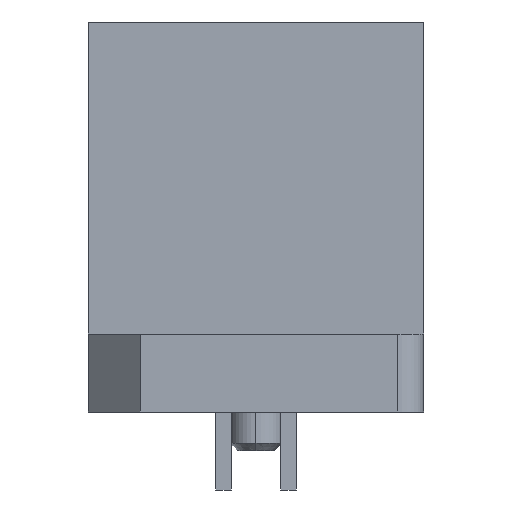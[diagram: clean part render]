
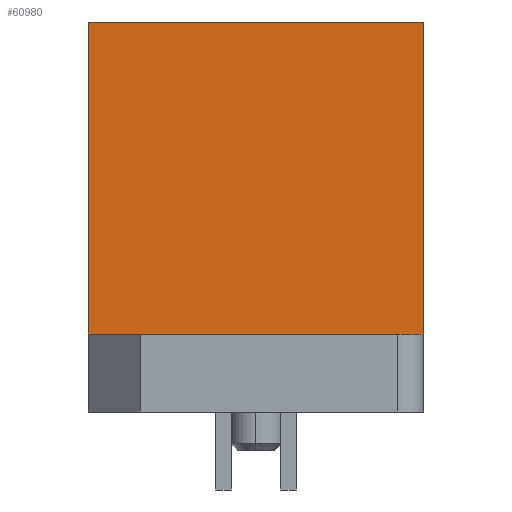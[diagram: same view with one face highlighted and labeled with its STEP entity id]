
A CAD part, left-side view. The second image highlights one B-rep face of the part: STEP entity #60980.
In plain terms, the highlighted planar face has unit normal (-1, 0, 0).
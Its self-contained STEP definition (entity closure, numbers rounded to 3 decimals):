
#34690=CARTESIAN_POINT('',(11.472,-7.636,-17.5));
#34700=VERTEX_POINT('',#34690);
#34730=CARTESIAN_POINT('',(11.472,-7.636,
-13.));
#34740=DIRECTION('',(0.,0.,1.));
#34750=VECTOR('',#34740,1.);
#34760=LINE('',#34730,#34750);
#34770=CARTESIAN_POINT('',(11.472,-7.636,-5.5));
#34780=VERTEX_POINT('',#34770);
#34790=EDGE_CURVE('',#34700,#34780,#34760,.T.);
#55100=CARTESIAN_POINT('',(11.472,0.364,-5.5));
#55110=DIRECTION('',(0.,1.,0.));
#55120=VECTOR('',#55110,1.);
#55130=LINE('',#55100,#55120);
#55140=CARTESIAN_POINT('',(11.472,5.264,-5.5));
#55150=VERTEX_POINT('',#55140);
#55160=EDGE_CURVE('',#34780,#55150,#55130,.T.);
#58160=CARTESIAN_POINT('',(11.472,5.264,
-13.));
#58170=DIRECTION('',(0.,0.,-1.));
#58180=VECTOR('',#58170,1.);
#58190=LINE('',#58160,#58180);
#58200=CARTESIAN_POINT('',(11.472,5.264,-17.5));
#58210=VERTEX_POINT('',#58200);
#58220=EDGE_CURVE('',#55150,#58210,#58190,.T.);
#60630=CARTESIAN_POINT('',(11.472,0.364,-17.5));
#60640=DIRECTION('',(0.,1.,0.));
#60650=VECTOR('',#60640,1.);
#60660=LINE('',#60630,#60650);
#60670=EDGE_CURVE('',#34700,#58210,#60660,.T.);
#60870=CARTESIAN_POINT('',(11.472,6.554,-19.1));
#60880=DIRECTION('',(-1.,0.,0.));
#60890=DIRECTION('',(0.,0.,1.));
#60900=AXIS2_PLACEMENT_3D('',#60870,#60880,#60890);
#60910=PLANE('',#60900);
#60920=ORIENTED_EDGE('',*,*,#58220,.T.);
#60930=ORIENTED_EDGE('',*,*,#55160,.T.);
#60940=ORIENTED_EDGE('',*,*,#34790,.T.);
#60950=ORIENTED_EDGE('',*,*,#60670,.F.);
#60960=EDGE_LOOP('',(#60950,#60940,#60930,#60920));
#60970=FACE_OUTER_BOUND('',#60960,.T.);
#60980=ADVANCED_FACE('',(#60970),#60910,.T.);
